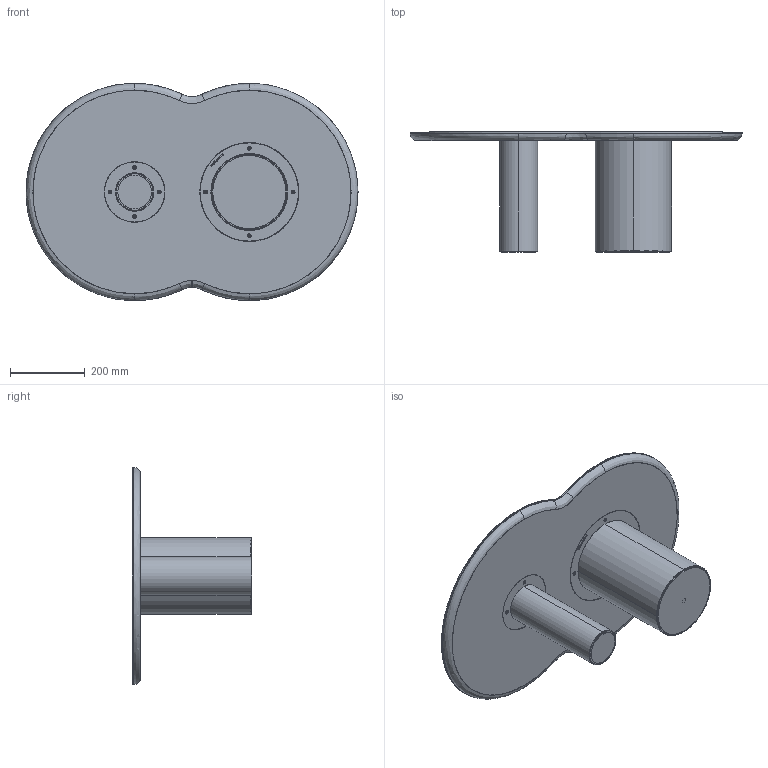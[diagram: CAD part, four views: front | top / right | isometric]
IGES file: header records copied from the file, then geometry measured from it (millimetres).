
Start section: SolidWorks IGES file using analytic representation for surfaces
Global section: file name: \\UTENTI\Dati Utenti\Tecnico\DC\2D - 3D per sito\3D\DeCastelli-3D-Flock 32.igs; native system: SolidWorks 2022; preprocessor: SolidWorks 2022; author: filippo; date: 240724.135657; units: millimetre
Bounding box: 886 x 320 x 580 mm (x, y, z)
Surface area: 2450547.3 mm2 (no closed solid volume)
Topology: 0 solids, 0 shells, 86 faces, 2903 edges, 2903 vertices
Faces by surface type: revolution 46, bspline 40
